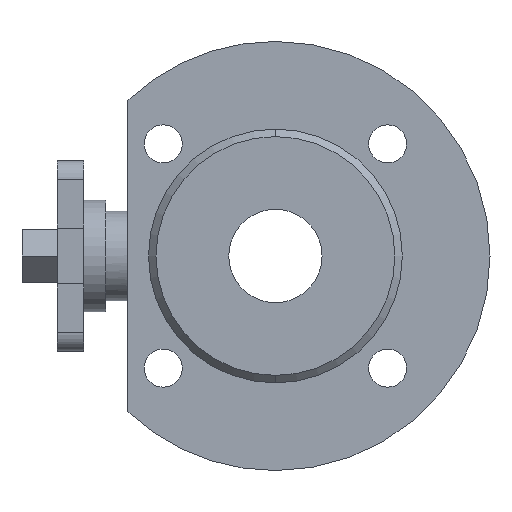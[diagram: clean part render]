
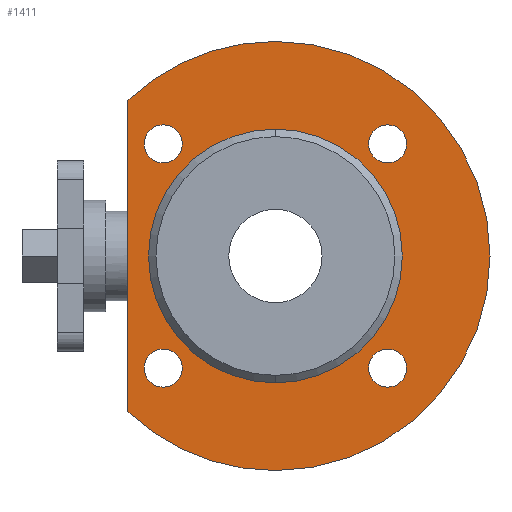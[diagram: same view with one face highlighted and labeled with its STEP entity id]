
A CAD part, left-side view. The second image highlights one B-rep face of the part: STEP entity #1411.
In plain terms, the highlighted planar face has unit normal (-1, 0, 0).
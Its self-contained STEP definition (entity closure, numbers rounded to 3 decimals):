
#27 = DIRECTION ( 'NONE',  ( 0., 0., 1. ) ) ;
#52 = DIRECTION ( 'NONE',  ( -1., 0., 0. ) ) ;
#76 = AXIS2_PLACEMENT_3D ( 'NONE', #1917, #534, #2141 ) ;
#136 = DIRECTION ( 'NONE',  ( 0., 0., 1. ) ) ;
#155 = DIRECTION ( 'NONE',  ( -1., 0., 0. ) ) ;
#164 = ORIENTED_EDGE ( 'NONE', *, *, #2892, .F. ) ;
#171 = CARTESIAN_POINT ( 'NONE',  ( -24.5, -30.052, -24.952 ) ) ;
#199 = EDGE_CURVE ( 'NONE', #477, #2502, #265, .T. ) ;
#210 = CARTESIAN_POINT ( 'NONE',  ( -24.5, 30.052, -30.052 ) ) ;
#224 = CIRCLE ( 'NONE', #1164, 5.1 ) ;
#245 = AXIS2_PLACEMENT_3D ( 'NONE', #826, #2420, #1039 ) ;
#251 = ORIENTED_EDGE ( 'NONE', *, *, #2557, .F. ) ;
#265 = CIRCLE ( 'NONE', #2451, 5.1 ) ;
#274 = ORIENTED_EDGE ( 'NONE', *, *, #1538, .T. ) ;
#288 = CIRCLE ( 'NONE', #1850, 5.1 ) ;
#304 = AXIS2_PLACEMENT_3D ( 'NONE', #1748, #1282, #2871 ) ;
#343 = CARTESIAN_POINT ( 'NONE',  ( -24.5, 30.052, 35.152 ) ) ;
#390 = CARTESIAN_POINT ( 'NONE',  ( -24.5, -30.052, -30.052 ) ) ;
#420 = CIRCLE ( 'NONE', #1702, 5.1 ) ;
#427 = DIRECTION ( 'NONE',  ( 0., 1., 0. ) ) ;
#432 = VERTEX_POINT ( 'NONE', #1161 ) ;
#477 = VERTEX_POINT ( 'NONE', #1885 ) ;
#494 = CARTESIAN_POINT ( 'NONE',  ( -24.5, -30.052, 30.052 ) ) ;
#514 = FACE_BOUND ( 'NONE', #1212, .T. ) ;
#525 = EDGE_CURVE ( 'NONE', #669, #1072, #1134, .T. ) ;
#534 = DIRECTION ( 'NONE',  ( -1., 0., 0. ) ) ;
#569 = ORIENTED_EDGE ( 'NONE', *, *, #894, .F. ) ;
#584 = FACE_BOUND ( 'NONE', #2686, .T. ) ;
#598 = AXIS2_PLACEMENT_3D ( 'NONE', #390, #1997, #623 ) ;
#605 = CIRCLE ( 'NONE', #245, 57.5 ) ;
#613 = ORIENTED_EDGE ( 'NONE', *, *, #2027, .F. ) ;
#623 = DIRECTION ( 'NONE',  ( 0., 0., -1. ) ) ;
#669 = VERTEX_POINT ( 'NONE', #797 ) ;
#687 = ORIENTED_EDGE ( 'NONE', *, *, #1330, .F. ) ;
#708 = EDGE_CURVE ( 'NONE', #2419, #1882, #1248, .T. ) ;
#710 = CARTESIAN_POINT ( 'NONE',  ( -24.5, -30.052, -35.152 ) ) ;
#729 = DIRECTION ( 'NONE',  ( 0., -1., 0. ) ) ;
#797 = CARTESIAN_POINT ( 'NONE',  ( -24.5, 30.052, -35.152 ) ) ;
#819 = AXIS2_PLACEMENT_3D ( 'NONE', #1522, #155, #1751 ) ;
#826 = CARTESIAN_POINT ( 'NONE',  ( -24.5, 0., 0. ) ) ;
#865 = VERTEX_POINT ( 'NONE', #2909 ) ;
#890 = CIRCLE ( 'NONE', #1525, 5.1 ) ;
#894 = EDGE_CURVE ( 'NONE', #1072, #669, #224, .T. ) ;
#947 = ORIENTED_EDGE ( 'NONE', *, *, #525, .F. ) ;
#958 = LINE ( 'NONE', #1386, #1503 ) ;
#1018 = DIRECTION ( 'NONE',  ( -1., 0., 0. ) ) ;
#1038 = DIRECTION ( 'NONE',  ( -1., 0., 0. ) ) ;
#1039 = DIRECTION ( 'NONE',  ( 0., 0., 1. ) ) ;
#1041 = PLANE ( 'NONE',  #304 ) ;
#1065 = ORIENTED_EDGE ( 'NONE', *, *, #199, .F. ) ;
#1072 = VERTEX_POINT ( 'NONE', #2756 ) ;
#1099 = FACE_BOUND ( 'NONE', #2574, .T. ) ;
#1134 = CIRCLE ( 'NONE', #76, 5.1 ) ;
#1161 = CARTESIAN_POINT ( 'NONE',  ( -24.5, 39.5, -41.785 ) ) ;
#1164 = AXIS2_PLACEMENT_3D ( 'NONE', #210, #1809, #427 ) ;
#1173 = CARTESIAN_POINT ( 'NONE',  ( -24.5, 39.5, 41.785 ) ) ;
#1203 = EDGE_LOOP ( 'NONE', ( #613, #1264 ) ) ;
#1212 = EDGE_LOOP ( 'NONE', ( #2160, #251 ) ) ;
#1231 = DIRECTION ( 'NONE',  ( -1., 0., 0. ) ) ;
#1248 = CIRCLE ( 'NONE', #1856, 34. ) ;
#1264 = ORIENTED_EDGE ( 'NONE', *, *, #1451, .F. ) ;
#1282 = DIRECTION ( 'NONE',  ( 1., 0., 0. ) ) ;
#1328 = DIRECTION ( 'NONE',  ( -1., 0., 0. ) ) ;
#1330 = EDGE_CURVE ( 'NONE', #2533, #2867, #2623, .T. ) ;
#1371 = DIRECTION ( 'NONE',  ( -1., 0., 0. ) ) ;
#1386 = CARTESIAN_POINT ( 'NONE',  ( -24.5, 39.5, 0. ) ) ;
#1402 = CARTESIAN_POINT ( 'NONE',  ( -24.5, 30.052, 30.052 ) ) ;
#1411 = ADVANCED_FACE ( 'NONE', ( #584, #2334, #1099, #1735, #514, #1801 ), #1041, .F. ) ;
#1431 = VERTEX_POINT ( 'NONE', #171 ) ;
#1442 = AXIS2_PLACEMENT_3D ( 'NONE', #2404, #1018, #2614 ) ;
#1451 = EDGE_CURVE ( 'NONE', #1839, #1431, #2781, .T. ) ;
#1473 = VERTEX_POINT ( 'NONE', #2893 ) ;
#1496 = DIRECTION ( 'NONE',  ( -1., 0., 0. ) ) ;
#1503 = VECTOR ( 'NONE', #1634, 1000. ) ;
#1522 = CARTESIAN_POINT ( 'NONE',  ( -24.5, 0., 0. ) ) ;
#1525 = AXIS2_PLACEMENT_3D ( 'NONE', #2591, #1231, #2827 ) ;
#1526 = AXIS2_PLACEMENT_3D ( 'NONE', #2727, #1371, #27 ) ;
#1538 = EDGE_CURVE ( 'NONE', #865, #2931, #2570, .T. ) ;
#1634 = DIRECTION ( 'NONE',  ( 0., 0., -1. ) ) ;
#1642 = CARTESIAN_POINT ( 'NONE',  ( -24.5, -30.052, 30.052 ) ) ;
#1643 = DIRECTION ( 'NONE',  ( 0., 0., 1. ) ) ;
#1693 = ORIENTED_EDGE ( 'NONE', *, *, #2895, .F. ) ;
#1702 = AXIS2_PLACEMENT_3D ( 'NONE', #1402, #52, #1643 ) ;
#1735 = FACE_BOUND ( 'NONE', #2102, .T. ) ;
#1748 = CARTESIAN_POINT ( 'NONE',  ( -24.5, 57.5, 0. ) ) ;
#1751 = DIRECTION ( 'NONE',  ( 0., 0., 1. ) ) ;
#1801 = FACE_OUTER_BOUND ( 'NONE', #2130, .T. ) ;
#1809 = DIRECTION ( 'NONE',  ( -1., 0., 0. ) ) ;
#1839 = VERTEX_POINT ( 'NONE', #710 ) ;
#1850 = AXIS2_PLACEMENT_3D ( 'NONE', #494, #2104, #729 ) ;
#1856 = AXIS2_PLACEMENT_3D ( 'NONE', #2416, #1038, #2632 ) ;
#1882 = VERTEX_POINT ( 'NONE', #2109 ) ;
#1885 = CARTESIAN_POINT ( 'NONE',  ( -24.5, -30.052, 35.152 ) ) ;
#1893 = AXIS2_PLACEMENT_3D ( 'NONE', #2840, #1496, #136 ) ;
#1916 = ORIENTED_EDGE ( 'NONE', *, *, #2865, .T. ) ;
#1917 = CARTESIAN_POINT ( 'NONE',  ( -24.5, 30.052, -30.052 ) ) ;
#1997 = DIRECTION ( 'NONE',  ( -1., 0., 0. ) ) ;
#2027 = EDGE_CURVE ( 'NONE', #1431, #1839, #890, .T. ) ;
#2091 = CARTESIAN_POINT ( 'NONE',  ( -24.5, 30.052, 24.952 ) ) ;
#2102 = EDGE_LOOP ( 'NONE', ( #687, #164 ) ) ;
#2104 = DIRECTION ( 'NONE',  ( -1., 0., 0. ) ) ;
#2109 = CARTESIAN_POINT ( 'NONE',  ( -24.5, 0., 34. ) ) ;
#2117 = ORIENTED_EDGE ( 'NONE', *, *, #2639, .T. ) ;
#2130 = EDGE_LOOP ( 'NONE', ( #2117, #2305, #274, #1916 ) ) ;
#2141 = DIRECTION ( 'NONE',  ( 0., 1., 0. ) ) ;
#2148 = EDGE_CURVE ( 'NONE', #1473, #865, #605, .T. ) ;
#2152 = CARTESIAN_POINT ( 'NONE',  ( -24.5, -30.052, 24.952 ) ) ;
#2160 = ORIENTED_EDGE ( 'NONE', *, *, #708, .F. ) ;
#2305 = ORIENTED_EDGE ( 'NONE', *, *, #2148, .T. ) ;
#2334 = FACE_BOUND ( 'NONE', #1203, .T. ) ;
#2404 = CARTESIAN_POINT ( 'NONE',  ( -24.5, 0., 0. ) ) ;
#2416 = CARTESIAN_POINT ( 'NONE',  ( -24.5, 0., 0. ) ) ;
#2419 = VERTEX_POINT ( 'NONE', #2553 ) ;
#2420 = DIRECTION ( 'NONE',  ( -1., 0., 0. ) ) ;
#2451 = AXIS2_PLACEMENT_3D ( 'NONE', #1642, #1328, #2599 ) ;
#2502 = VERTEX_POINT ( 'NONE', #2152 ) ;
#2533 = VERTEX_POINT ( 'NONE', #343 ) ;
#2553 = CARTESIAN_POINT ( 'NONE',  ( -24.5, 0., -34. ) ) ;
#2557 = EDGE_CURVE ( 'NONE', #1882, #2419, #2880, .T. ) ;
#2570 = CIRCLE ( 'NONE', #1526, 57.5 ) ;
#2574 = EDGE_LOOP ( 'NONE', ( #569, #947 ) ) ;
#2591 = CARTESIAN_POINT ( 'NONE',  ( -24.5, -30.052, -30.052 ) ) ;
#2599 = DIRECTION ( 'NONE',  ( 0., -1., 0. ) ) ;
#2614 = DIRECTION ( 'NONE',  ( 0., 0., 1. ) ) ;
#2623 = CIRCLE ( 'NONE', #1893, 5.1 ) ;
#2632 = DIRECTION ( 'NONE',  ( 0., 0., 1. ) ) ;
#2639 = EDGE_CURVE ( 'NONE', #432, #1473, #2734, .T. ) ;
#2686 = EDGE_LOOP ( 'NONE', ( #1065, #1693 ) ) ;
#2727 = CARTESIAN_POINT ( 'NONE',  ( -24.5, 0., 0. ) ) ;
#2734 = CIRCLE ( 'NONE', #819, 57.5 ) ;
#2756 = CARTESIAN_POINT ( 'NONE',  ( -24.5, 30.052, -24.952 ) ) ;
#2781 = CIRCLE ( 'NONE', #598, 5.1 ) ;
#2827 = DIRECTION ( 'NONE',  ( 0., 0., -1. ) ) ;
#2840 = CARTESIAN_POINT ( 'NONE',  ( -24.5, 30.052, 30.052 ) ) ;
#2865 = EDGE_CURVE ( 'NONE', #2931, #432, #958, .T. ) ;
#2867 = VERTEX_POINT ( 'NONE', #2091 ) ;
#2871 = DIRECTION ( 'NONE',  ( 0., 0., -1. ) ) ;
#2880 = CIRCLE ( 'NONE', #1442, 34. ) ;
#2892 = EDGE_CURVE ( 'NONE', #2867, #2533, #420, .T. ) ;
#2893 = CARTESIAN_POINT ( 'NONE',  ( -24.5, 0., -57.5 ) ) ;
#2895 = EDGE_CURVE ( 'NONE', #2502, #477, #288, .T. ) ;
#2909 = CARTESIAN_POINT ( 'NONE',  ( -24.5, 0., 57.5 ) ) ;
#2931 = VERTEX_POINT ( 'NONE', #1173 ) ;
